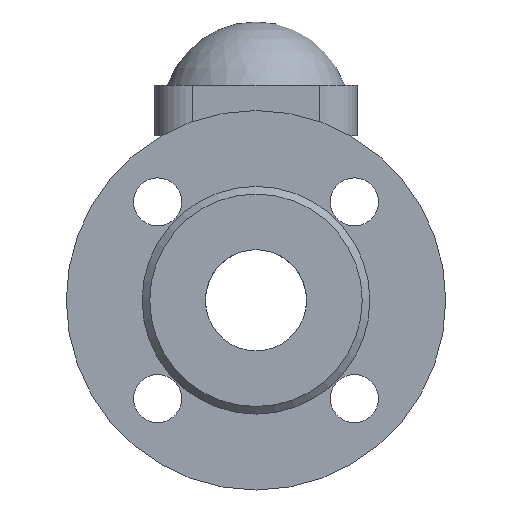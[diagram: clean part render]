
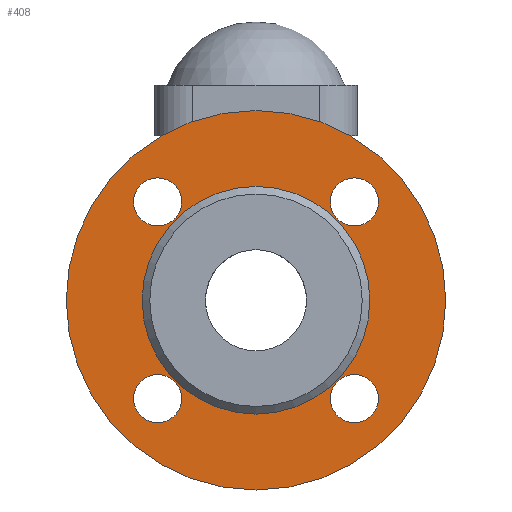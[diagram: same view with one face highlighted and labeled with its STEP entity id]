
A CAD part, front view. The second image highlights one B-rep face of the part: STEP entity #408.
In plain terms, the highlighted planar face has unit normal (0, -1, 0).
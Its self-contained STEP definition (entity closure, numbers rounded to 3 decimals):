
#408=ADVANCED_FACE('',(#1058,#1060,#1062,#1064,#1066,#1068),#1070,.T.);
#1058=FACE_BOUND('',#1059,.T.);
#1059=EDGE_LOOP('',(#1628));
#1060=FACE_BOUND('',#1061,.T.);
#1061=EDGE_LOOP('',(#1629));
#1062=FACE_BOUND('',#1063,.T.);
#1063=EDGE_LOOP('',(#1630));
#1064=FACE_BOUND('',#1065,.T.);
#1065=EDGE_LOOP('',(#1631));
#1066=FACE_BOUND('',#1067,.T.);
#1067=EDGE_LOOP('',(#1632));
#1068=FACE_BOUND('',#1069,.T.);
#1069=EDGE_LOOP('',(#1633));
#1070=PLANE('',#1071);
#1071=AXIS2_PLACEMENT_3D('',#1072,#1073,#1074);
#1072=CARTESIAN_POINT('',(0.,-87.,0.));
#1073=DIRECTION('',(0.,-1.,0.));
#1074=DIRECTION('',(0.,0.,1.));
#1628=ORIENTED_EDGE('',*,*,#1856,.F.);
#1629=ORIENTED_EDGE('',*,*,#1860,.T.);
#1630=ORIENTED_EDGE('',*,*,#1859,.T.);
#1631=ORIENTED_EDGE('',*,*,#1858,.T.);
#1632=ORIENTED_EDGE('',*,*,#1863,.T.);
#1633=ORIENTED_EDGE('',*,*,#1857,.T.);
#1856=EDGE_CURVE('',#2077,#2077,#2078,.T.);
#1857=EDGE_CURVE('',#2079,#2079,#2080,.F.);
#1858=EDGE_CURVE('',#2081,#2081,#2082,.F.);
#1859=EDGE_CURVE('',#2083,#2083,#2084,.F.);
#1860=EDGE_CURVE('',#2085,#2085,#2086,.F.);
#1863=EDGE_CURVE('',#2091,#2091,#2092,.T.);
#2077=VERTEX_POINT('',#2821);
#2078=CIRCLE('',#2822,75.);
#2079=VERTEX_POINT('',#2826);
#2080=CIRCLE('',#2827,9.5);
#2081=VERTEX_POINT('',#2831);
#2082=CIRCLE('',#2832,9.5);
#2083=VERTEX_POINT('',#2836);
#2084=CIRCLE('',#2837,9.5);
#2085=VERTEX_POINT('',#2841);
#2086=CIRCLE('',#2842,9.5);
#2091=VERTEX_POINT('',#2856);
#2092=CIRCLE('',#2857,45.);
#2821=CARTESIAN_POINT('',(0.,-87.,75.));
#2822=AXIS2_PLACEMENT_3D('',#2823,#2824,#2825);
#2823=CARTESIAN_POINT('',(0.,-87.,0.));
#2824=DIRECTION('',(0.,1.,0.));
#2825=DIRECTION('',(0.,0.,1.));
#2826=CARTESIAN_POINT('',(-29.391,-87.,38.891));
#2827=AXIS2_PLACEMENT_3D('',#2828,#2829,#2830);
#2828=CARTESIAN_POINT('',(-38.891,-87.,38.891));
#2829=DIRECTION('',(0.,-1.,0.));
#2830=DIRECTION('',(1.,0.,0.));
#2831=CARTESIAN_POINT('',(-38.891,-87.,-29.391));
#2832=AXIS2_PLACEMENT_3D('',#2833,#2834,#2835);
#2833=CARTESIAN_POINT('',(-38.891,-87.,-38.891));
#2834=DIRECTION('',(0.,-1.,0.));
#2835=DIRECTION('',(0.,0.,1.));
#2836=CARTESIAN_POINT('',(29.391,-87.,-38.891));
#2837=AXIS2_PLACEMENT_3D('',#2838,#2839,#2840);
#2838=CARTESIAN_POINT('',(38.891,-87.,-38.891));
#2839=DIRECTION('',(0.,-1.,0.));
#2840=DIRECTION('',(-1.,0.,0.));
#2841=CARTESIAN_POINT('',(38.891,-87.,29.391));
#2842=AXIS2_PLACEMENT_3D('',#2843,#2844,#2845);
#2843=CARTESIAN_POINT('',(38.891,-87.,38.891));
#2844=DIRECTION('',(0.,-1.,0.));
#2845=DIRECTION('',(0.,0.,-1.));
#2856=CARTESIAN_POINT('',(0.,-87.,45.));
#2857=AXIS2_PLACEMENT_3D('',#2858,#2859,#2860);
#2858=CARTESIAN_POINT('',(0.,-87.,0.));
#2859=DIRECTION('',(0.,1.,0.));
#2860=DIRECTION('',(0.,0.,1.));
